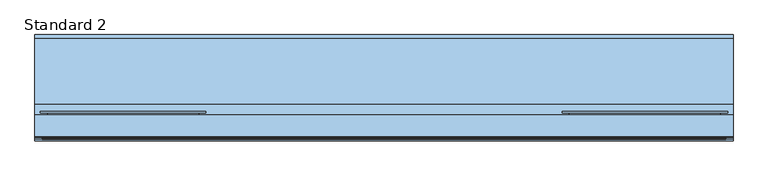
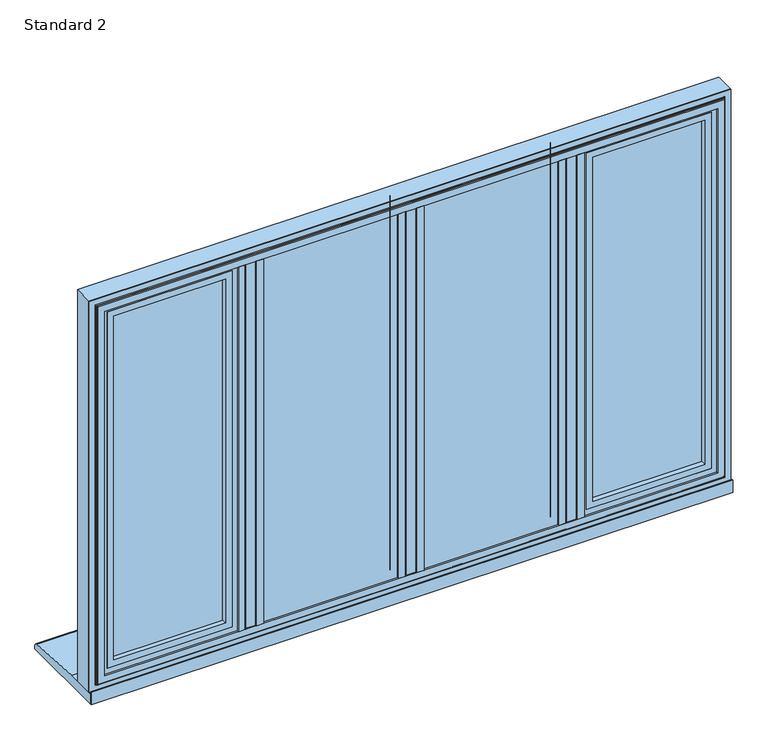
"""IFC4 building model written with IfcOpenShell, lengths in millimetres: window geometry, SMARTS_AlithermHeritage : Standard 2."""

from ifc_helpers import new_model, si_unit, point, frame, frame_2d, origin, place, context, project, spatial, polyline, circle_curve, ellipse_curve, trimmed, segment, composite_curve, outline, extrude, faceted_brep, source, transform, mapped, element, save
from ifc_brep_helpers import plane_surface, cylinder_surface, revolved_surface, advanced_brep


def standard_2_e57bb09f(model_context):
    return source(origin(), model_context, "Body", "SolidModel", [
        extrude(outline(polyline([(-383.6941456, 95.2798432), (-356.3058544, 95.2798432), (-356.3058544, 47.279476), (-383.6941456, 47.279476), (-383.6941456, 95.2798432)])), frame((0.0, 0.0, 652.6941456), z_axis=(0.0, 0.0, 1.0), x_axis=(1.0, 0.0, 0.0)), (0.0, 0.0, 1.0), 919.6117089),
        extrude(outline(composite_curve([segment(polyline([(-399.0, 47.279476), (-341.0, 47.279476), (-341.0, 43.2798432), (-357.0, 43.2798432)]), True, "CONTINUOUS"), segment(trimmed(circle_curve(frame_2d((-357.0, 44.2798432)), 1.0), [point((-357.0, 43.2798432))], [point((-358.0, 44.2798432))], False, "CARTESIAN"), True, "CONTINUOUS"), segment(polyline([(-358.0, 44.2798432), (-358.0, 45.7798432), (-382.0, 45.7798432), (-382.0, 44.2798432)]), True, "CONTINUOUS"), segment(trimmed(circle_curve(frame_2d((-383.0, 44.2798432)), 1.0), [point((-382.0, 44.2798432))], [point((-383.0, 43.2798432))], False, "CARTESIAN"), True, "CONTINUOUS"), segment(polyline([(-383.0, 43.2798432), (-399.0, 43.2798432), (-399.0, 47.279476)]), True, "CONTINUOUS")], self_intersect=False)), frame((0.0, 0.0, 668.0), z_axis=(0.0, 0.0, 1.0), x_axis=(1.0, 0.0, 0.0)), (0.0, 0.0, 1.0), 889.0),
        extrude(outline(polyline([(-13.6941456, 95.2798432), (13.6941456, 95.2798432), (13.6941456, 47.279476), (-13.6941456, 47.279476), (-13.6941456, 95.2798432)])), frame((0.0, 0.0, 652.6941456), z_axis=(0.0, 0.0, 1.0), x_axis=(1.0, 0.0, 0.0)), (0.0, 0.0, 1.0), 919.6117089),
        extrude(outline(composite_curve([segment(polyline([(-29.0, 47.279476), (29.0, 47.279476), (29.0, 43.2798432), (13.0, 43.2798432)]), True, "CONTINUOUS"), segment(trimmed(circle_curve(frame_2d((13.0, 44.2798432)), 1.0), [point((13.0, 43.2798432))], [point((12.0, 44.2798432))], False, "CARTESIAN"), True, "CONTINUOUS"), segment(polyline([(12.0, 44.2798432), (12.0, 45.7798432), (-12.0, 45.7798432), (-12.0, 44.2798432)]), True, "CONTINUOUS"), segment(trimmed(circle_curve(frame_2d((-13.0, 44.2798432)), 1.0), [point((-12.0, 44.2798432))], [point((-13.0, 43.2798432))], False, "CARTESIAN"), True, "CONTINUOUS"), segment(polyline([(-13.0, 43.2798432), (-29.0, 43.2798432), (-29.0, 47.279476)]), True, "CONTINUOUS")], self_intersect=False)), frame((0.0, 0.0, 668.0), z_axis=(0.0, 0.0, 1.0), x_axis=(1.0, 0.0, 0.0)), (0.0, 0.0, 1.0), 889.0),
        extrude(outline(polyline([(356.3058544, 95.2798432), (383.6941456, 95.2798432), (383.6941456, 47.279476), (356.3058544, 47.279476), (356.3058544, 95.2798432)])), frame((0.0, 0.0, 652.6941456), z_axis=(0.0, 0.0, 1.0), x_axis=(1.0, 0.0, 0.0)), (0.0, 0.0, 1.0), 919.6117089),
        extrude(outline(composite_curve([segment(polyline([(341.0, 47.279476), (399.0, 47.279476), (399.0, 43.2798432), (383.0, 43.2798432)]), True, "CONTINUOUS"), segment(trimmed(circle_curve(frame_2d((383.0, 44.2798432)), 1.0), [point((383.0, 43.2798432))], [point((382.0, 44.2798432))], False, "CARTESIAN"), True, "CONTINUOUS"), segment(polyline([(382.0, 44.2798432), (382.0, 45.7798432), (358.0, 45.7798432), (358.0, 44.2798432)]), True, "CONTINUOUS"), segment(trimmed(circle_curve(frame_2d((357.0, 44.2798432)), 1.0), [point((358.0, 44.2798432))], [point((357.0, 43.2798432))], False, "CARTESIAN"), True, "CONTINUOUS"), segment(polyline([(357.0, 43.2798432), (341.0, 43.2798432), (341.0, 47.279476)]), True, "CONTINUOUS")], self_intersect=False)), frame((0.0, 0.0, 668.0), z_axis=(0.0, 0.0, 1.0), x_axis=(1.0, 0.0, 0.0)), (0.0, 0.0, 1.0), 889.0),
        extrude(outline(polyline([(-693.5, 89.2798432), (-412.5, 89.2798432), (-412.5, 85.2798432), (-693.5, 85.2798432), (-693.5, 89.2798432)])), frame((0.0, 0.0, 681.5), z_axis=(0.0, 0.0, 1.0), x_axis=(1.0, 0.0, 0.0)), (0.0, 0.0, 1.0), 862.0),
        extrude(outline(polyline([(-693.5, 69.2798432), (-412.5, 69.2798432), (-412.5, 65.2798432), (-693.5, 65.2798432), (-693.5, 69.2798432)])), frame((0.0, 0.0, 681.5), z_axis=(0.0, 0.0, 1.0), x_axis=(1.0, 0.0, 0.0)), (0.0, 0.0, 1.0), 862.0),
        extrude(outline(polyline([(1543.5, -693.5), (681.5, -693.5), (681.5, -412.5), (1543.5, -412.5), (1543.5, -693.5)]), holes=[polyline([(1533.5, -422.5), (691.5, -422.5), (691.5, -683.5), (1533.5, -683.5), (1533.5, -422.5)])]), frame((0.0, 69.2798432, 0.0), z_axis=(0.0, 1.0, 0.0), x_axis=(0.0, 0.0, 1.0)), (0.0, 0.0, 1.0), 16.0),
        extrude(outline(polyline([(1547.0052956, -697.0052956), (677.9947044, -697.0052956), (677.9947044, -408.9947044), (1547.0052956, -408.9947044), (1547.0052956, -697.0052956)]), holes=[polyline([(1532.0, -424.0), (693.0, -424.0), (693.0, -682.0), (1532.0, -682.0), (1532.0, -424.0)])]), frame((0.0, 51.2798432, 0.0), z_axis=(0.0, 1.0, 0.0), x_axis=(0.0, 0.0, 1.0)), (0.0, 0.0, 1.0), 11.3),
        extrude(outline(polyline([(662.3548042, -712.6451958), (662.3548042, -393.3548042), (1562.6451958, -393.3548042), (1562.6451958, -712.6451958), (662.3548042, -712.6451958)]), holes=[polyline([(1547.0, -697.0), (1547.0, -409.0), (678.0, -409.0), (678.0, -697.0), (1547.0, -697.0)])]), frame((0.0, 51.2798432, 0.0), z_axis=(0.0, 1.0, 0.0), x_axis=(0.0, 0.0, 1.0)), (0.0, 0.0, 1.0), 41.6),
        advanced_brep(
        [(-682.0, 98.0798432, 1532.0), (-682.0, 92.8798432, 1532.0), (-682.0, 92.8798432, 693.0), (-682.0, 98.0798432, 693.0), (-424.0, 92.8798432, 693.0), (-424.0, 98.0798432, 693.0), (-424.0, 92.8798432, 1532.0), (-424.0, 98.0798432, 1532.0), (-728.2, 99.2798432, 1578.2), (-728.2, 103.2798432, 1578.2), (-728.2, 103.2798432, 646.8), (-728.2, 99.2798432, 646.8), (-377.8, 103.2798432, 646.8), (-377.8, 99.2798432, 646.8), (-377.8, 103.2798432, 1578.2), (-377.8, 99.2798432, 1578.2), (-713.1467657, 99.2798432, 1563.1467657), (-392.8532343, 99.2798432, 1563.1467657), (-392.8532343, 99.2798432, 661.8532343), (-713.1467657, 99.2798432, 661.8532343), (-699.2, 103.2798432, 675.8), (-406.8, 103.2798432, 675.8), (-406.8, 103.2798432, 1549.2), (-699.2, 103.2798432, 1549.2), (-713.1467657, 92.8798432, 1563.1467657), (-713.1467657, 92.8798432, 661.8532343), (-392.8532343, 92.8798432, 661.8532343), (-392.8532343, 92.8798432, 1563.1467657), (-697.2, 101.2798432, 1547.2), (-697.2, 100.0798432, 1547.2), (-697.2, 100.0798432, 677.8), (-697.2, 101.2798432, 677.8), (-695.2, 98.0798432, 1545.2), (-695.2, 98.0798432, 679.8), (-408.8, 100.0798432, 677.8), (-408.8, 101.2798432, 677.8), (-410.8, 98.0798432, 679.8), (-408.8, 100.0798432, 1547.2), (-408.8, 101.2798432, 1547.2), (-410.8, 98.0798432, 1545.2)],
        [
            (0, 1),
            (1, 2),
            (2, 3),
            (3, 0),
            (2, 4),
            (4, 5),
            (5, 3),
            (4, 6),
            (6, 7),
            (7, 5),
            (6, 1),
            (0, 7),
            (8, 9),
            (9, 10),
            (10, 11),
            (11, 8),
            (10, 12),
            (12, 13),
            (13, 11),
            (12, 14),
            (14, 15),
            (15, 13),
            (15, 8),
            (16, 17),
            (17, 18),
            (18, 19),
            (19, 16),
            (14, 9),
            (20, 21),
            (21, 22),
            (22, 23),
            (23, 20),
            (24, 16),
            (19, 25),
            (25, 24),
            (18, 26),
            (26, 25),
            (17, 27),
            (27, 26),
            (27, 24),
            (28, 29),
            (29, 30),
            (30, 31),
            (31, 28),
            (29, 32, ellipse_curve(frame((-695.2, 100.0798432, 1545.2), z_axis=(0.7071067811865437, 0.0, 0.7071067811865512), x_axis=(0.7071067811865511, 0.0, -0.7071067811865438)), 2.8284271, 2.0)),
            (32, 33),
            (33, 30, ellipse_curve(frame((-695.2, 100.0798432, 679.8), z_axis=(0.7071067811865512, 0.0, -0.7071067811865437), x_axis=(-0.7071067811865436, 0.0, -0.7071067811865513)), 2.8284271, 2.0)),
            (30, 34),
            (34, 35),
            (35, 31),
            (33, 36),
            (36, 34, ellipse_curve(frame((-410.8, 100.0798432, 679.8), z_axis=(0.7071067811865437, 0.0, 0.7071067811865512), x_axis=(0.7071067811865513, 0.0, -0.7071067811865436)), 2.8284271, 2.0)),
            (34, 37),
            (37, 38),
            (38, 35),
            (36, 39),
            (39, 37, ellipse_curve(frame((-410.8, 100.0798432, 1545.2), z_axis=(-0.7071067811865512, 0.0, 0.7071067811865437), x_axis=(0.7071067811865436, 0.0, 0.7071067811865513)), 2.8284271, 2.0)),
            (32, 39),
            (37, 29),
            (28, 38),
            (23, 28, ellipse_curve(frame((-699.2, 101.2798432, 1549.2), z_axis=(-0.7071067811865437, 0.0, -0.7071067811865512), x_axis=(-0.7071067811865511, 0.0, 0.7071067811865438)), 2.8284271, 2.0)),
            (31, 20, ellipse_curve(frame((-699.2, 101.2798432, 675.8), z_axis=(-0.7071067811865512, 0.0, 0.7071067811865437), x_axis=(0.7071067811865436, 0.0, 0.7071067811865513)), 2.8284271, 2.0)),
            (35, 21, ellipse_curve(frame((-406.8, 101.2798432, 675.8), z_axis=(-0.7071067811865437, 0.0, -0.7071067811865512), x_axis=(-0.7071067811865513, 0.0, 0.7071067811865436)), 2.8284271, 2.0)),
            (38, 22, ellipse_curve(frame((-406.8, 101.2798432, 1549.2), z_axis=(0.7071067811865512, 0.0, -0.7071067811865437), x_axis=(-0.7071067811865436, 0.0, -0.7071067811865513)), 2.8284271, 2.0)),
        ],
        [
            plane_surface(frame((-682.0, 92.8798432, 1532.0), z_axis=(1.0, 0.0, 0.0), x_axis=(0.0, 0.0, -1.0))),
            plane_surface(frame((-682.0, 92.8798432, 693.0), z_axis=(0.0, 0.0, 1.0), x_axis=(1.0, 0.0, 0.0))),
            plane_surface(frame((-424.0, 92.8798432, 693.0), z_axis=(-1.0, 0.0, 0.0), x_axis=(0.0, 0.0, 1.0))),
            plane_surface(frame((-424.0, 92.8798432, 1532.0), z_axis=(0.0, 0.0, -1.0), x_axis=(-1.0, 0.0, 0.0))),
            plane_surface(frame((-728.2, 103.2798432, 1578.2), z_axis=(-1.0, 0.0, 0.0), x_axis=(0.0, 0.0, -1.0))),
            plane_surface(frame((-728.2, 103.2798432, 646.8), z_axis=(0.0, 0.0, -1.0), x_axis=(1.0, 0.0, 0.0))),
            plane_surface(frame((-377.8, 103.2798432, 646.8), z_axis=(1.0, 0.0, 0.0), x_axis=(0.0, 0.0, 1.0))),
            plane_surface(frame((-377.8, 99.2798432, 1578.2), z_axis=(0.0, -1.0, 0.0), x_axis=(-1.0, 0.0, 0.0))),
            plane_surface(frame((-377.8, 103.2798432, 1578.2), z_axis=(0.0, 0.0, 1.0), x_axis=(-1.0, 0.0, 0.0))),
            plane_surface(frame((-406.8, 103.2798432, 1549.2), z_axis=(0.0, 1.0, 0.0), x_axis=(-1.0, 0.0, 0.0))),
            plane_surface(frame((-713.1467657, 99.2798432, 1563.1467657), z_axis=(-1.0, 0.0, 0.0), x_axis=(0.0, 0.0, -1.0))),
            plane_surface(frame((-713.1467657, 99.2798432, 661.8532343), z_axis=(0.0, 0.0, -1.0), x_axis=(1.0, 0.0, 0.0))),
            plane_surface(frame((-392.8532343, 99.2798432, 661.8532343), z_axis=(1.0, 0.0, 0.0), x_axis=(0.0, 0.0, 1.0))),
            plane_surface(frame((-392.8532343, 92.8798432, 1563.1467657), z_axis=(0.0, -1.0, 0.0), x_axis=(-1.0, 0.0, 0.0))),
            plane_surface(frame((-392.8532343, 99.2798432, 1563.1467657), z_axis=(0.0, 0.0, 1.0), x_axis=(-1.0, 0.0, 0.0))),
            plane_surface(frame((-697.2, 100.0798432, 1547.2), z_axis=(1.0, 0.0, 0.0), x_axis=(0.0, 0.0, -1.0))),
            revolved_surface(polyline([(-697.2, 100.0798432, 677.8), (-697.2, 100.0798432, 1547.2)]), (-695.2, 100.0798432, 1557.0), (0.0, 0.0, -1.0)),
            plane_surface(frame((-697.2, 100.0798432, 677.8), z_axis=(0.0, 0.0, 1.0), x_axis=(1.0, 0.0, 0.0))),
            revolved_surface(polyline([(-408.8, 100.0798432, 677.8), (-697.2, 100.0798432, 677.8)]), (-707.0, 100.0798432, 679.8), (1.0, 0.0, 0.0)),
            plane_surface(frame((-408.8, 100.0798432, 677.8), z_axis=(-1.0, 0.0, 0.0), x_axis=(0.0, 0.0, 1.0))),
            revolved_surface(polyline([(-408.8, 100.0798432, 1547.2), (-408.8, 100.0798432, 677.8)]), (-410.8, 100.0798432, 668.0), (0.0, 0.0, 1.0)),
            plane_surface(frame((-424.0, 98.0798432, 1532.0), z_axis=(0.0, 1.0, 0.0), x_axis=(-1.0, 0.0, 0.0))),
            plane_surface(frame((-408.8, 100.0798432, 1547.2), z_axis=(0.0, 0.0, -1.0), x_axis=(-1.0, 0.0, 0.0))),
            revolved_surface(polyline([(-697.2, 100.0798432, 1547.2), (-408.8, 100.0798432, 1547.2)]), (-399.0, 100.0798432, 1545.2), (-1.0, 0.0, 0.0)),
            cylinder_surface(frame((-699.2, 101.2798432, 1557.0), z_axis=(0.0, 0.0, 1.0), x_axis=(-1.0, 0.0, 0.0)), 2.0),
            cylinder_surface(frame((-707.0, 101.2798432, 675.8), z_axis=(-1.0, 0.0, 0.0), x_axis=(0.0, 0.0, -1.0)), 2.0),
            cylinder_surface(frame((-406.8, 101.2798432, 668.0), z_axis=(0.0, 0.0, -1.0), x_axis=(1.0, 0.0, 0.0)), 2.0),
            cylinder_surface(frame((-399.0, 101.2798432, 1549.2), z_axis=(1.0, 0.0, 0.0), x_axis=(0.0, 0.0, 1.0)), 2.0),
        ],
        [
            (0, [[1, 2, 3, 4]]),
            (1, [[-3, 5, 6, 7]]),
            (2, [[-6, 8, 9, 10]]),
            (3, [[-9, 11, -1, 12]]),
            (4, [[13, 14, 15, 16]]),
            (5, [[-15, 17, 18, 19]]),
            (6, [[-18, 20, 21, 22]]),
            (7, [[-19, -22, 23, -16], [24, 25, 26, 27]]),
            (8, [[-21, 28, -13, -23]]),
            (9, [[-28, -20, -17, -14], [29, 30, 31, 32]]),
            (10, [[33, -27, 34, 35]]),
            (11, [[-34, -26, 36, 37]]),
            (12, [[-36, -25, 38, 39]]),
            (13, [[-37, -39, 40, -35], [-11, -8, -5, -2]]),
            (14, [[-38, -24, -33, -40]]),
            (15, [[41, 42, 43, 44]]),
            (16, [[45, 46, 47, -42]]),
            (17, [[-43, 48, 49, 50]]),
            (18, [[-47, 51, 52, -48]]),
            (19, [[-49, 53, 54, 55]]),
            (20, [[-52, 56, 57, -53]]),
            (21, [[58, -56, -51, -46], [-7, -10, -12, -4]]),
            (22, [[-54, 59, -41, 60]]),
            (23, [[-57, -58, -45, -59]]),
            (24, [[61, -44, 62, -32]]),
            (25, [[-62, -50, 63, -29]]),
            (26, [[-63, -55, 64, -30]]),
            (27, [[-64, -60, -61, -31]]),
        ],
    ),
        extrude(outline(polyline([(-351.0, 75.2798432), (-19.0, 75.2798432), (-19.0, 71.2798432), (-351.0, 71.2798432), (-351.0, 75.2798432)])), frame((0.0, 0.0, 658.0), z_axis=(0.0, 0.0, 1.0), x_axis=(1.0, 0.0, 0.0)), (0.0, 0.0, 1.0), 909.0),
        extrude(outline(polyline([(-351.0, 55.2798432), (-19.0, 55.2798432), (-19.0, 51.2798432), (-351.0, 51.2798432), (-351.0, 55.2798432)])), frame((0.0, 0.0, 658.0), z_axis=(0.0, 0.0, 1.0), x_axis=(1.0, 0.0, 0.0)), (0.0, 0.0, 1.0), 909.0),
        extrude(outline(polyline([(1567.0, -351.0), (658.0, -351.0), (658.0, -19.0), (1567.0, -19.0), (1567.0, -351.0)]), holes=[polyline([(1557.0, -29.0), (668.0, -29.0), (668.0, -341.0), (1557.0, -341.0), (1557.0, -29.0)])]), frame((0.0, 55.2798432, 0.0), z_axis=(0.0, 1.0, 0.0), x_axis=(0.0, 0.0, 1.0)), (0.0, 0.0, 1.0), 16.0),
        faceted_brep([(-19.1851151, 95.2798432, 1566.8148849), (-29.0, 78.2798098, 1557.0), (-341.0, 78.2798098, 1557.0), (-350.8148849, 95.2798432, 1566.8148849), (-13.6297324, 78.2798098, 1572.3702676), (-13.6297324, 95.2798432, 1572.3702676), (-356.3702676, 95.2798432, 1572.3702676), (-356.3702676, 78.2798098, 1572.3702676), (-356.3702676, 78.2798098, 652.6297324), (-356.3702676, 95.2798432, 652.6297324), (-13.6297324, 95.2798432, 652.6297324), (-13.6297324, 78.2798098, 652.6297324), (-350.8148849, 95.2798432, 658.1851151), (-19.1851151, 95.2798432, 658.1851151), (-29.0, 78.2798098, 668.0), (-341.0, 78.2798098, 668.0)], [[[0, 1, 2, 3]], [[4, 5, 6, 7]], [[8, 9, 10, 11]], [[5, 10, 9, 6], [3, 12, 13, 0]], [[7, 8, 11, 4], [1, 14, 15, 2]], [[3, 2, 15, 12]], [[7, 6, 9, 8]], [[12, 15, 14, 13]], [[13, 14, 1, 0]], [[11, 10, 5, 4]]]),
        extrude(outline(polyline([(19.0, 75.2798432), (351.0, 75.2798432), (351.0, 71.2798432), (19.0, 71.2798432), (19.0, 75.2798432)])), frame((0.0, 0.0, 658.0), z_axis=(0.0, 0.0, 1.0), x_axis=(1.0, 0.0, 0.0)), (0.0, 0.0, 1.0), 909.0),
        extrude(outline(polyline([(19.0, 55.2798432), (351.0, 55.2798432), (351.0, 51.2798432), (19.0, 51.2798432), (19.0, 55.2798432)])), frame((0.0, 0.0, 658.0), z_axis=(0.0, 0.0, 1.0), x_axis=(1.0, 0.0, 0.0)), (0.0, 0.0, 1.0), 909.0),
        extrude(outline(polyline([(1567.0, 19.0), (658.0, 19.0), (658.0, 351.0), (1567.0, 351.0), (1567.0, 19.0)]), holes=[polyline([(1557.0, 341.0), (668.0, 341.0), (668.0, 29.0), (1557.0, 29.0), (1557.0, 341.0)])]), frame((0.0, 55.2798432, 0.0), z_axis=(0.0, 1.0, 0.0), x_axis=(0.0, 0.0, 1.0)), (0.0, 0.0, 1.0), 16.0),
        faceted_brep([(350.8148849, 95.2798432, 1566.8148849), (341.0, 78.2798098, 1557.0), (29.0, 78.2798098, 1557.0), (19.1851151, 95.2798432, 1566.8148849), (356.3702676, 78.2798098, 1572.3702676), (356.3702676, 95.2798432, 1572.3702676), (13.6297324, 95.2798432, 1572.3702676), (13.6297324, 78.2798098, 1572.3702676), (13.6297324, 78.2798098, 652.6297324), (13.6297324, 95.2798432, 652.6297324), (356.3702676, 95.2798432, 652.6297324), (356.3702676, 78.2798098, 652.6297324), (19.1851151, 95.2798432, 658.1851151), (350.8148849, 95.2798432, 658.1851151), (341.0, 78.2798098, 668.0), (29.0, 78.2798098, 668.0)], [[[0, 1, 2, 3]], [[4, 5, 6, 7]], [[8, 9, 10, 11]], [[5, 10, 9, 6], [3, 12, 13, 0]], [[7, 8, 11, 4], [1, 14, 15, 2]], [[3, 2, 15, 12]], [[7, 6, 9, 8]], [[12, 15, 14, 13]], [[13, 14, 1, 0]], [[11, 10, 5, 4]]]),
        extrude(outline(polyline([(1590.0, 740.0), (1590.0, -740.0), (635.0, -740.0), (635.0, 740.0), (1590.0, 740.0)]), holes=[polyline([(652.7000182, 722.2999818), (652.7000182, -722.2999818), (1572.2999818, -722.2999818), (1572.2999818, 722.2999818), (652.7000182, 722.2999818)])]), frame((0.0, 50.279857, 0.0), z_axis=(0.0, 1.0, 0.0), x_axis=(0.0, 0.0, 1.0)), (0.0, 0.0, 1.0), 44.9999962),
        advanced_brep(
        [(707.0, 43.2798432, 1557.0), (707.0, 47.2798432, 1557.0), (707.0, 47.2798432, 668.0), (707.0, 43.2798432, 668.0), (740.0, 50.279857, 1590.0), (740.0, 48.279857, 1590.0), (740.0, 48.279857, 635.0), (740.0, 50.279857, 635.0), (722.4999818, 43.2798432, 1572.4999818), (-722.4999818, 43.2798432, 1572.4999818), (-722.4999818, 43.2798432, 652.5000182), (722.4999818, 43.2798432, 652.5000182), (-707.0, 43.2798432, 668.0), (-707.0, 43.2798432, 1557.0), (-740.0, 50.279857, 1590.0), (-740.0, 48.279857, 1590.0), (-740.0, 50.279857, 635.0), (722.2999818, 50.279857, 1572.2999818), (-722.2999818, 50.279857, 1572.2999818), (-722.2999818, 50.279857, 652.7000182), (722.2999818, 50.279857, 652.7000182), (-707.0, 47.2798432, 1557.0), (-707.0, 47.2798432, 668.0), (-740.0, 48.279857, 635.0), (-722.2999818, 47.2798432, 1572.2999818), (722.2999818, 47.2798432, 1572.2999818), (722.2999818, 47.2798432, 652.7000182), (724.4999818, 46.779857, 650.5000182), (724.4999818, 45.2798432, 650.5000182), (-724.4999818, 45.2798432, 650.5000182), (-724.4999818, 46.779857, 650.5000182), (724.4999818, 46.779857, 1574.4999818), (724.4999818, 45.2798432, 1574.4999818), (-722.2999818, 47.2798432, 652.7000182), (-724.4999818, 45.2798432, 1574.4999818), (-724.4999818, 46.779857, 1574.4999818), (725.9999818, 48.279857, 1575.9999818), (725.9999818, 48.279857, 649.0000182), (-725.9999818, 48.279857, 649.0000182), (-725.9999818, 48.279857, 1575.9999818)],
        [
            (0, 1),
            (1, 2),
            (2, 3),
            (3, 0),
            (4, 5),
            (5, 6),
            (6, 7),
            (7, 4),
            (8, 9),
            (9, 10),
            (10, 11),
            (11, 8),
            (3, 12),
            (12, 13),
            (13, 0),
            (14, 15),
            (15, 5),
            (4, 14),
            (7, 16),
            (16, 14),
            (17, 18),
            (18, 19),
            (19, 20),
            (20, 17),
            (13, 21),
            (21, 1),
            (2, 22),
            (22, 12),
            (22, 21),
            (6, 23),
            (23, 16),
            (23, 15),
            (24, 18),
            (17, 25),
            (25, 24),
            (20, 26),
            (26, 25),
            (27, 28),
            (28, 29),
            (29, 30),
            (30, 27),
            (31, 32),
            (32, 28),
            (27, 31),
            (19, 33),
            (33, 26),
            (24, 33),
            (29, 34),
            (34, 35),
            (35, 30),
            (34, 32),
            (31, 35),
            (36, 31, ellipse_curve(frame((725.9999818, 46.779857, 1575.9999818), z_axis=(-0.7071067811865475, 0.0, 0.7071067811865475), x_axis=(-0.7071067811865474, 0.0, -0.7071067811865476)), 2.1213203, 1.5)),
            (27, 37, ellipse_curve(frame((725.9999818, 46.779857, 649.0000182), z_axis=(-0.7071067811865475, 0.0, -0.7071067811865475), x_axis=(0.7071067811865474, 0.0, -0.7071067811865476)), 2.1213203, 1.5)),
            (37, 36),
            (30, 38, ellipse_curve(frame((-725.9999818, 46.779857, 649.0000182), z_axis=(-0.7071067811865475, 0.0, 0.7071067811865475), x_axis=(-0.7071067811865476, 0.0, -0.7071067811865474)), 2.1213203, 1.5)),
            (38, 37),
            (35, 39, ellipse_curve(frame((-725.9999818, 46.779857, 1575.9999818), z_axis=(0.7071067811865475, 0.0, 0.7071067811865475), x_axis=(-0.7071067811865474, 0.0, 0.7071067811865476)), 2.1213203, 1.5)),
            (39, 38),
            (36, 39),
            (32, 8, ellipse_curve(frame((722.4999818, 45.2798432, 1572.4999818), z_axis=(0.7071067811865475, 0.0, -0.7071067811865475), x_axis=(0.7071067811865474, 0.0, 0.7071067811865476)), 2.8284271, 2.0)),
            (11, 28, ellipse_curve(frame((722.4999818, 45.2798432, 652.5000182), z_axis=(0.7071067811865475, 0.0, 0.7071067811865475), x_axis=(-0.7071067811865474, 0.0, 0.7071067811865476)), 2.8284271, 2.0)),
            (10, 29, ellipse_curve(frame((-722.4999818, 45.2798432, 652.5000182), z_axis=(0.7071067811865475, 0.0, -0.7071067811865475), x_axis=(0.7071067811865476, 0.0, 0.7071067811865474)), 2.8284271, 2.0)),
            (9, 34, ellipse_curve(frame((-722.4999818, 45.2798432, 1572.4999818), z_axis=(-0.7071067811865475, 0.0, -0.7071067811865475), x_axis=(0.7071067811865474, 0.0, -0.7071067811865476)), 2.8284271, 2.0)),
        ],
        [
            plane_surface(frame((707.0, 47.2798432, 1557.0), z_axis=(-1.0, 0.0, 0.0), x_axis=(0.0, 0.0, -1.0))),
            plane_surface(frame((740.0, 48.279857, 1590.0), z_axis=(1.0, 0.0, 0.0), x_axis=(0.0, 0.0, -1.0))),
            plane_surface(frame((-707.0, 43.2798432, 1557.0), z_axis=(0.0, -1.0, 0.0), x_axis=(1.0, 0.0, 0.0))),
            plane_surface(frame((-740.0, 48.279857, 1590.0), z_axis=(0.0, 0.0, 1.0), x_axis=(1.0, 0.0, 0.0))),
            plane_surface(frame((-740.0, 50.279857, 1590.0), z_axis=(0.0, 1.0, 0.0), x_axis=(1.0, 0.0, 0.0))),
            plane_surface(frame((-707.0, 47.2798432, 1557.0), z_axis=(0.0, 0.0, -1.0), x_axis=(1.0, 0.0, 0.0))),
            plane_surface(frame((707.0, 47.2798432, 668.0), z_axis=(0.0, 0.0, 1.0), x_axis=(-1.0, 0.0, 0.0))),
            plane_surface(frame((-707.0, 47.2798432, 668.0), z_axis=(1.0, 0.0, 0.0), x_axis=(0.0, 0.0, 1.0))),
            plane_surface(frame((740.0, 48.279857, 635.0), z_axis=(0.0, 0.0, -1.0), x_axis=(-1.0, 0.0, 0.0))),
            plane_surface(frame((-740.0, 48.279857, 635.0), z_axis=(-1.0, 0.0, 0.0), x_axis=(0.0, 0.0, 1.0))),
            plane_surface(frame((-722.2999818, 50.279857, 1572.2999818), z_axis=(0.0, 0.0, -1.0), x_axis=(1.0, 0.0, 0.0))),
            plane_surface(frame((722.2999818, 50.279857, 1572.2999818), z_axis=(-1.0, 0.0, 0.0), x_axis=(0.0, 0.0, -1.0))),
            plane_surface(frame((724.4999818, 45.2798432, 650.5000182), z_axis=(0.0, 0.0, -1.0), x_axis=(-1.0, 0.0, 0.0))),
            plane_surface(frame((724.4999818, 45.2798432, 1574.4999818), z_axis=(1.0, 0.0, 0.0), x_axis=(0.0, 0.0, -1.0))),
            plane_surface(frame((722.2999818, 50.279857, 652.7000182), z_axis=(0.0, 0.0, 1.0), x_axis=(-1.0, 0.0, 0.0))),
            plane_surface(frame((-722.2999818, 50.279857, 652.7000182), z_axis=(1.0, 0.0, 0.0), x_axis=(0.0, 0.0, 1.0))),
            plane_surface(frame((-724.4999818, 45.2798432, 650.5000182), z_axis=(-1.0, 0.0, 0.0), x_axis=(0.0, 0.0, 1.0))),
            plane_surface(frame((-722.2999818, 47.2798432, 1572.2999818), z_axis=(0.0, 1.0, 0.0), x_axis=(1.0, 0.0, 0.0))),
            plane_surface(frame((-724.4999818, 45.2798432, 1574.4999818), z_axis=(0.0, 0.0, 1.0), x_axis=(1.0, 0.0, 0.0))),
            revolved_surface(polyline([(724.4999818, 46.779857, 647.5000182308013), (724.4999818, 46.779857, 1577.4999817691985)]), (725.9999818, 46.779857, 1590.0), (0.0, 0.0, -1.0)),
            revolved_surface(polyline([(-727.4999817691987, 46.779857, 650.5000182), (727.4999817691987, 46.779857, 650.5000182)]), (740.0, 46.779857, 649.0000182), (-1.0, 0.0, 0.0)),
            revolved_surface(polyline([(-724.4999818, 46.779857, 1577.4999817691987), (-724.4999818, 46.779857, 647.5000182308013)]), (-725.9999818, 46.779857, 635.0), (0.0, 0.0, 1.0)),
            revolved_surface(polyline([(727.4999817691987, 46.779857, 1574.4999818), (-727.4999817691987, 46.779857, 1574.4999818)]), (-740.0, 46.779857, 1575.9999818), (1.0, 0.0, 0.0)),
            plane_surface(frame((-725.9999818, 48.279857, 1575.9999818), z_axis=(0.0, -1.0, 0.0), x_axis=(1.0, 0.0, 0.0))),
            cylinder_surface(frame((722.4999818, 45.2798432, 1590.0), z_axis=(0.0, 0.0, 1.0), x_axis=(-1.0, 0.0, 0.0)), 2.0),
            cylinder_surface(frame((740.0, 45.2798432, 652.5000182), z_axis=(1.0, 0.0, 0.0), x_axis=(0.0, 0.0, 1.0)), 2.0),
            cylinder_surface(frame((-722.4999818, 45.2798432, 635.0), z_axis=(0.0, 0.0, -1.0), x_axis=(1.0, 0.0, 0.0)), 2.0),
            cylinder_surface(frame((-740.0, 45.2798432, 1572.4999818), z_axis=(-1.0, 0.0, 0.0), x_axis=(0.0, 0.0, -1.0)), 2.0),
        ],
        [
            (0, [[1, 2, 3, 4]]),
            (1, [[5, 6, 7, 8]]),
            (2, [[9, 10, 11, 12], [13, 14, 15, -4]]),
            (3, [[16, 17, -5, 18]]),
            (4, [[19, 20, -18, -8], [21, 22, 23, 24]]),
            (5, [[25, 26, -1, -15]]),
            (6, [[-3, 27, 28, -13]]),
            (7, [[-28, 29, -25, -14]]),
            (8, [[-7, 30, 31, -19]]),
            (9, [[-31, 32, -16, -20]]),
            (10, [[33, -21, 34, 35]]),
            (11, [[-34, -24, 36, 37]]),
            (12, [[38, 39, 40, 41]]),
            (13, [[42, 43, -38, 44]]),
            (14, [[-36, -23, 45, 46]]),
            (15, [[-45, -22, -33, 47]]),
            (16, [[-40, 48, 49, 50]]),
            (17, [[-46, -47, -35, -37], [-26, -29, -27, -2]]),
            (18, [[-49, 51, -42, 52]]),
            (19, [[53, -44, 54, 55]]),
            (20, [[-54, -41, 56, 57]]),
            (21, [[-56, -50, 58, 59]]),
            (22, [[-58, -52, -53, 60]]),
            (23, [[-17, -32, -30, -6], [-57, -59, -60, -55]]),
            (24, [[61, -12, 62, -43]]),
            (25, [[-62, -11, 63, -39]]),
            (26, [[-63, -10, 64, -48]]),
            (27, [[-64, -9, -61, -51]]),
        ],
    ),
        extrude(outline(polyline([(412.5, 89.2798432), (693.5, 89.2798432), (693.5, 85.2798432), (412.5, 85.2798432), (412.5, 89.2798432)])), frame((0.0, 0.0, 681.5), z_axis=(0.0, 0.0, 1.0), x_axis=(1.0, 0.0, 0.0)), (0.0, 0.0, 1.0), 862.0),
        extrude(outline(polyline([(412.5, 69.2798432), (693.5, 69.2798432), (693.5, 65.2798432), (412.5, 65.2798432), (412.5, 69.2798432)])), frame((0.0, 0.0, 681.5), z_axis=(0.0, 0.0, 1.0), x_axis=(1.0, 0.0, 0.0)), (0.0, 0.0, 1.0), 862.0),
        extrude(outline(polyline([(1543.5, 412.5), (681.5, 412.5), (681.5, 693.5), (1543.5, 693.5), (1543.5, 412.5)]), holes=[polyline([(1533.5, 683.5), (691.5, 683.5), (691.5, 422.5), (1533.5, 422.5), (1533.5, 683.5)])]), frame((0.0, 69.2798432, 0.0), z_axis=(0.0, 1.0, 0.0), x_axis=(0.0, 0.0, 1.0)), (0.0, 0.0, 1.0), 16.0),
        extrude(outline(polyline([(1547.0052956, 408.9947044), (677.9947044, 408.9947044), (677.9947044, 697.0052956), (1547.0052956, 697.0052956), (1547.0052956, 408.9947044)]), holes=[polyline([(1532.0, 682.0), (693.0, 682.0), (693.0, 424.0), (1532.0, 424.0), (1532.0, 682.0)])]), frame((0.0, 51.2798432, 0.0), z_axis=(0.0, 1.0, 0.0), x_axis=(0.0, 0.0, 1.0)), (0.0, 0.0, 1.0), 11.3),
        extrude(outline(polyline([(662.3548042, 393.3548042), (662.3548042, 712.6451958), (1562.6451958, 712.6451958), (1562.6451958, 393.3548042), (662.3548042, 393.3548042)]), holes=[polyline([(1547.0, 409.0), (1547.0, 697.0), (678.0, 697.0), (678.0, 409.0), (1547.0, 409.0)])]), frame((0.0, 51.2798432, 0.0), z_axis=(0.0, 1.0, 0.0), x_axis=(0.0, 0.0, 1.0)), (0.0, 0.0, 1.0), 41.6),
        advanced_brep(
        [(424.0, 98.0798432, 1532.0), (424.0, 92.8798432, 1532.0), (424.0, 92.8798432, 693.0), (424.0, 98.0798432, 693.0), (682.0, 92.8798432, 693.0), (682.0, 98.0798432, 693.0), (682.0, 92.8798432, 1532.0), (682.0, 98.0798432, 1532.0), (377.8, 99.2798432, 1578.2), (377.8, 103.2798432, 1578.2), (377.8, 103.2798432, 646.8), (377.8, 99.2798432, 646.8), (728.2, 103.2798432, 646.8), (728.2, 99.2798432, 646.8), (728.2, 103.2798432, 1578.2), (728.2, 99.2798432, 1578.2), (392.8532343, 99.2798432, 1563.1467657), (713.1467657, 99.2798432, 1563.1467657), (713.1467657, 99.2798432, 661.8532343), (392.8532343, 99.2798432, 661.8532343), (406.8, 103.2798432, 675.8), (699.2, 103.2798432, 675.8), (699.2, 103.2798432, 1549.2), (406.8, 103.2798432, 1549.2), (392.8532343, 92.8798432, 1563.1467657), (392.8532343, 92.8798432, 661.8532343), (713.1467657, 92.8798432, 661.8532343), (713.1467657, 92.8798432, 1563.1467657), (408.8, 101.2798432, 1547.2), (408.8, 100.0798432, 1547.2), (408.8, 100.0798432, 677.8), (408.8, 101.2798432, 677.8), (410.8, 98.0798432, 1545.2), (410.8, 98.0798432, 679.8), (697.2, 100.0798432, 677.8), (697.2, 101.2798432, 677.8), (695.2, 98.0798432, 679.8), (697.2, 100.0798432, 1547.2), (697.2, 101.2798432, 1547.2), (695.2, 98.0798432, 1545.2)],
        [
            (0, 1),
            (1, 2),
            (2, 3),
            (3, 0),
            (2, 4),
            (4, 5),
            (5, 3),
            (4, 6),
            (6, 7),
            (7, 5),
            (6, 1),
            (0, 7),
            (8, 9),
            (9, 10),
            (10, 11),
            (11, 8),
            (10, 12),
            (12, 13),
            (13, 11),
            (12, 14),
            (14, 15),
            (15, 13),
            (15, 8),
            (16, 17),
            (17, 18),
            (18, 19),
            (19, 16),
            (14, 9),
            (20, 21),
            (21, 22),
            (22, 23),
            (23, 20),
            (24, 16),
            (19, 25),
            (25, 24),
            (18, 26),
            (26, 25),
            (17, 27),
            (27, 26),
            (27, 24),
            (28, 29),
            (29, 30),
            (30, 31),
            (31, 28),
            (29, 32, ellipse_curve(frame((410.8, 100.0798432, 1545.2), z_axis=(0.7071067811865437, 0.0, 0.7071067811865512), x_axis=(0.7071067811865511, 0.0, -0.7071067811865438)), 2.8284271, 2.0)),
            (32, 33),
            (33, 30, ellipse_curve(frame((410.8, 100.0798432, 679.8), z_axis=(0.7071067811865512, 0.0, -0.7071067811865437), x_axis=(-0.7071067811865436, 0.0, -0.7071067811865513)), 2.8284271, 2.0)),
            (30, 34),
            (34, 35),
            (35, 31),
            (33, 36),
            (36, 34, ellipse_curve(frame((695.2, 100.0798432, 679.8), z_axis=(0.7071067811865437, 0.0, 0.7071067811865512), x_axis=(0.7071067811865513, 0.0, -0.7071067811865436)), 2.8284271, 2.0)),
            (34, 37),
            (37, 38),
            (38, 35),
            (36, 39),
            (39, 37, ellipse_curve(frame((695.2, 100.0798432, 1545.2), z_axis=(-0.7071067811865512, 0.0, 0.7071067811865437), x_axis=(0.7071067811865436, 0.0, 0.7071067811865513)), 2.8284271, 2.0)),
            (32, 39),
            (37, 29),
            (28, 38),
            (23, 28, ellipse_curve(frame((406.8, 101.2798432, 1549.2), z_axis=(-0.7071067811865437, 0.0, -0.7071067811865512), x_axis=(-0.7071067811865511, 0.0, 0.7071067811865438)), 2.8284271, 2.0)),
            (31, 20, ellipse_curve(frame((406.8, 101.2798432, 675.8), z_axis=(-0.7071067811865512, 0.0, 0.7071067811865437), x_axis=(0.7071067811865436, 0.0, 0.7071067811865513)), 2.8284271, 2.0)),
            (35, 21, ellipse_curve(frame((699.2, 101.2798432, 675.8), z_axis=(-0.7071067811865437, 0.0, -0.7071067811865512), x_axis=(-0.7071067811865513, 0.0, 0.7071067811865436)), 2.8284271, 2.0)),
            (38, 22, ellipse_curve(frame((699.2, 101.2798432, 1549.2), z_axis=(0.7071067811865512, 0.0, -0.7071067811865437), x_axis=(-0.7071067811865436, 0.0, -0.7071067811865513)), 2.8284271, 2.0)),
        ],
        [
            plane_surface(frame((424.0, 92.8798432, 1532.0), z_axis=(1.0, 0.0, 0.0), x_axis=(0.0, 0.0, -1.0))),
            plane_surface(frame((424.0, 92.8798432, 693.0), z_axis=(0.0, 0.0, 1.0), x_axis=(1.0, 0.0, 0.0))),
            plane_surface(frame((682.0, 92.8798432, 693.0), z_axis=(-1.0, 0.0, 0.0), x_axis=(0.0, 0.0, 1.0))),
            plane_surface(frame((682.0, 92.8798432, 1532.0), z_axis=(0.0, 0.0, -1.0), x_axis=(-1.0, 0.0, 0.0))),
            plane_surface(frame((377.8, 103.2798432, 1578.2), z_axis=(-1.0, 0.0, 0.0), x_axis=(0.0, 0.0, -1.0))),
            plane_surface(frame((377.8, 103.2798432, 646.8), z_axis=(0.0, 0.0, -1.0), x_axis=(1.0, 0.0, 0.0))),
            plane_surface(frame((728.2, 103.2798432, 646.8), z_axis=(1.0, 0.0, 0.0), x_axis=(0.0, 0.0, 1.0))),
            plane_surface(frame((728.2, 99.2798432, 1578.2), z_axis=(0.0, -1.0, 0.0), x_axis=(-1.0, 0.0, 0.0))),
            plane_surface(frame((728.2, 103.2798432, 1578.2), z_axis=(0.0, 0.0, 1.0), x_axis=(-1.0, 0.0, 0.0))),
            plane_surface(frame((699.2, 103.2798432, 1549.2), z_axis=(0.0, 1.0, 0.0), x_axis=(-1.0, 0.0, 0.0))),
            plane_surface(frame((392.8532343, 99.2798432, 1563.1467657), z_axis=(-1.0, 0.0, 0.0), x_axis=(0.0, 0.0, -1.0))),
            plane_surface(frame((392.8532343, 99.2798432, 661.8532343), z_axis=(0.0, 0.0, -1.0), x_axis=(1.0, 0.0, 0.0))),
            plane_surface(frame((713.1467657, 99.2798432, 661.8532343), z_axis=(1.0, 0.0, 0.0), x_axis=(0.0, 0.0, 1.0))),
            plane_surface(frame((713.1467657, 92.8798432, 1563.1467657), z_axis=(0.0, -1.0, 0.0), x_axis=(-1.0, 0.0, 0.0))),
            plane_surface(frame((713.1467657, 99.2798432, 1563.1467657), z_axis=(0.0, 0.0, 1.0), x_axis=(-1.0, 0.0, 0.0))),
            plane_surface(frame((408.8, 100.0798432, 1547.2), z_axis=(1.0, 0.0, 0.0), x_axis=(0.0, 0.0, -1.0))),
            revolved_surface(polyline([(408.8, 100.0798432, 677.8), (408.8, 100.0798432, 1547.2)]), (410.8, 100.0798432, 1557.0), (0.0, 0.0, -1.0)),
            plane_surface(frame((408.8, 100.0798432, 677.8), z_axis=(0.0, 0.0, 1.0), x_axis=(1.0, 0.0, 0.0))),
            revolved_surface(polyline([(697.2, 100.0798432, 677.8), (408.8, 100.0798432, 677.8)]), (399.0, 100.0798432, 679.8), (1.0, 0.0, 0.0)),
            plane_surface(frame((697.2, 100.0798432, 677.8), z_axis=(-1.0, 0.0, 0.0), x_axis=(0.0, 0.0, 1.0))),
            revolved_surface(polyline([(697.2, 100.0798432, 1547.2), (697.2, 100.0798432, 677.8)]), (695.2, 100.0798432, 668.0), (0.0, 0.0, 1.0)),
            plane_surface(frame((682.0, 98.0798432, 1532.0), z_axis=(0.0, 1.0, 0.0), x_axis=(-1.0, 0.0, 0.0))),
            plane_surface(frame((697.2, 100.0798432, 1547.2), z_axis=(0.0, 0.0, -1.0), x_axis=(-1.0, 0.0, 0.0))),
            revolved_surface(polyline([(408.8, 100.0798432, 1547.2), (697.2, 100.0798432, 1547.2)]), (707.0, 100.0798432, 1545.2), (-1.0, 0.0, 0.0)),
            cylinder_surface(frame((406.8, 101.2798432, 1557.0), z_axis=(0.0, 0.0, 1.0), x_axis=(-1.0, 0.0, 0.0)), 2.0),
            cylinder_surface(frame((399.0, 101.2798432, 675.8), z_axis=(-1.0, 0.0, 0.0), x_axis=(0.0, 0.0, -1.0)), 2.0),
            cylinder_surface(frame((699.2, 101.2798432, 668.0), z_axis=(0.0, 0.0, -1.0), x_axis=(1.0, 0.0, 0.0)), 2.0),
            cylinder_surface(frame((707.0, 101.2798432, 1549.2), z_axis=(1.0, 0.0, 0.0), x_axis=(0.0, 0.0, 1.0)), 2.0),
        ],
        [
            (0, [[1, 2, 3, 4]]),
            (1, [[-3, 5, 6, 7]]),
            (2, [[-6, 8, 9, 10]]),
            (3, [[-9, 11, -1, 12]]),
            (4, [[13, 14, 15, 16]]),
            (5, [[-15, 17, 18, 19]]),
            (6, [[-18, 20, 21, 22]]),
            (7, [[-19, -22, 23, -16], [24, 25, 26, 27]]),
            (8, [[-21, 28, -13, -23]]),
            (9, [[-28, -20, -17, -14], [29, 30, 31, 32]]),
            (10, [[33, -27, 34, 35]]),
            (11, [[-34, -26, 36, 37]]),
            (12, [[-36, -25, 38, 39]]),
            (13, [[-37, -39, 40, -35], [-11, -8, -5, -2]]),
            (14, [[-38, -24, -33, -40]]),
            (15, [[41, 42, 43, 44]]),
            (16, [[45, 46, 47, -42]]),
            (17, [[-43, 48, 49, 50]]),
            (18, [[-47, 51, 52, -48]]),
            (19, [[-49, 53, 54, 55]]),
            (20, [[-52, 56, 57, -53]]),
            (21, [[58, -56, -51, -46], [-7, -10, -12, -4]]),
            (22, [[-54, 59, -41, 60]]),
            (23, [[-57, -58, -45, -59]]),
            (24, [[61, -44, 62, -32]]),
            (25, [[-62, -50, 63, -29]]),
            (26, [[-63, -55, 64, -30]]),
            (27, [[-64, -60, -61, -31]]),
        ],
    ),
        extrude(outline(polyline([(740.0, 43.2798432), (740.0, 40.7798432), (-740.0, 40.7798432), (-740.0, 43.2798432), (740.0, 43.2798432)])), frame((0.0, 0.0, 610.0), z_axis=(0.0, 0.0, 1.0), x_axis=(1.0, 0.0, 0.0)), (0.0, 0.0, 1.0), 31.0),
        extrude(outline(composite_curve([segment(polyline([(265.7798432, 610.0), (43.2798432, 610.0), (43.2798432, 635.0), (118.7798432, 635.0), (258.4770891, 625.9276664)]), True, "CONTINUOUS"), segment(trimmed(circle_curve(frame_2d((257.7798432, 617.9581088)), 8.0), [point((258.4770891, 625.9276664))], [point((265.7798432, 617.9581088))], False, "CARTESIAN"), True, "CONTINUOUS"), segment(polyline([(265.7798432, 617.9581088), (265.7798432, 610.0)]), True, "CONTINUOUS")], self_intersect=False)), frame((-740.0, 0.0, 0.0), z_axis=(1.0, 0.0, 0.0), x_axis=(0.0, 1.0, 0.0)), (0.0, 0.0, 1.0), 1480.0),
    ])


if __name__ == "__main__":
    model = new_model("IFC4")
    model_context = context("Model", 3, world=origin())
    ifc_project = project(units=[si_unit("LENGTHUNIT", "METRE", prefix="MILLI")], contexts=[model_context])
    site = spatial("IfcSite", under=ifc_project)
    building = spatial("IfcBuilding", under=site)
    placement = place(None, origin())
    standard_2_shape = standard_2_e57bb09f(model_context)
    element("IfcWindow", 1, ObjectType="SMARTS_AlithermHeritage : Standard 2", at=placement, inside=building, context=model_context, shape_type="MappedRepresentation", body=[
        mapped(standard_2_shape, transform((0.0, 0.0, 0.0), x_axis=(1.0, 0.0, 0.0), y_axis=(0.0, 1.0, 0.0), z_axis=(0.0, 0.0, 1.0))),
    ])
    save(model, "model.ifc")
